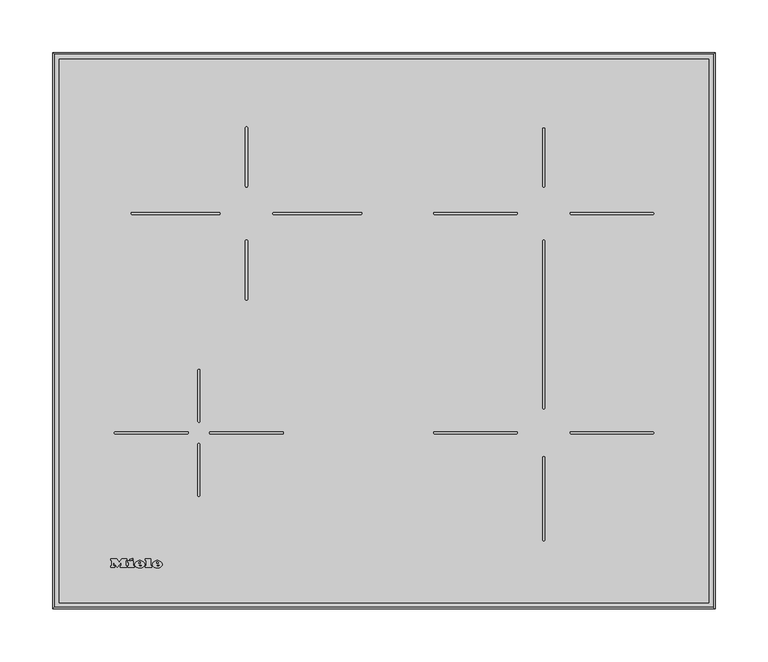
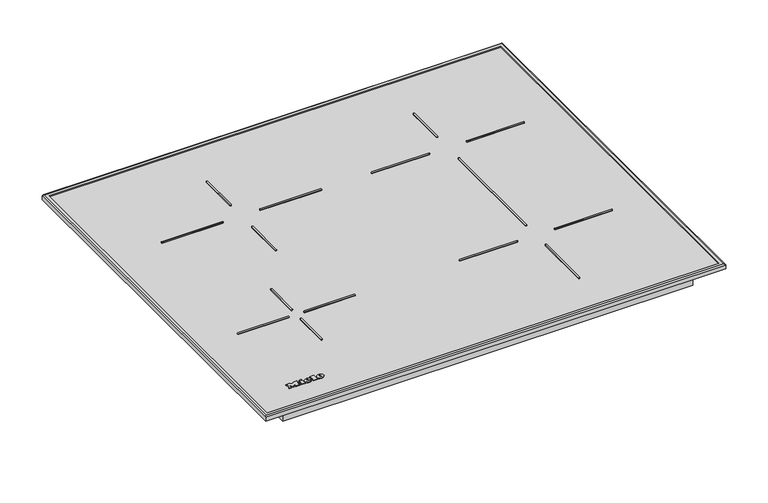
"""IFC4 building model written with IfcOpenShell, lengths in millimetres: proxy geometry, 12337600_D_KM7062FR : 26706210_D_12337600_KM7062FR."""

from ifc_helpers import new_model, si_unit, point, frame, frame_2d, origin, origin_with_axes, place, context, project, spatial, polyline, circle_curve, ellipse_curve, trimmed, segment, composite_curve, outline, extrude, source, transform, mapped, element, save
from ifc_brep_helpers import plane_surface, cylinder_surface, revolved_surface, extruded_surface, advanced_brep


def specialty_equipment_7da67e32(model_context):
    return source(origin(), model_context, "Body", "SolidModel", [
        advanced_brep(
        [(-214.911984, 41.066, 5.0000007), (-214.911984, 41.874, 5.0000007), (-209.559984, 41.874, 5.0000007), (-218.871984, 41.874, 5.0000007), (-216.671984, 39.17, 5.0000007), (-209.695984, 41.066, 5.0000007), (-212.111984, 41.066, 5.0000007), (-214.015984, 40.17, 5.0000007), (-214.911984, 42.898, 5.0000007), (-214.911984, 43.77, 5.0000007), (-213.543984, 43.77, 5.0000007), (-213.543984, 42.898, 5.0000007), (-214.911984, 41.066, 4.0000007), (-214.015984, 40.17, 4.0000007), (-212.111984, 41.066, 4.0000007), (-209.695984, 41.066, 4.0000007), (-216.671984, 39.17, 4.0000007), (-218.871984, 41.874, 4.0000007), (-209.559984, 41.874, 4.0000007), (-214.911984, 41.874, 4.0000007), (-214.911984, 42.898, 4.0000007), (-213.543984, 42.898, 4.0000007), (-213.543984, 43.77, 4.0000007), (-214.911984, 43.77, 4.0000007)],
        [
            (0, 1),
            (1, 2),
            (2, 3, ellipse_curve(frame((-214.215984, 41.874, 5.0000007), z_axis=(0.0, 0.0, 1.0), x_axis=(-1.0, 0.0, 0.0)), 4.656, 3.848)),
            (3, 4, circle_curve(frame((-215.7759404, 42.146, 5.0000007), z_axis=(0.0, 0.0, 1.0), x_axis=(0.0, -1.0, 0.0)), 3.1079688)),
            (4, 5, circle_curve(frame((-214.3091904, 44.258, 5.0000007), z_axis=(0.0, 0.0, 1.0), x_axis=(0.0, -1.0, 0.0)), 5.6098607)),
            (5, 6),
            (6, 7, circle_curve(frame((-213.6249252, 41.81, 5.0000007), z_axis=(0.0, 0.0, -1.0), x_axis=(0.0, -1.0, 0.0)), 1.6859795)),
            (7, 0, circle_curve(frame((-214.015984, 41.066, 5.0000007), z_axis=(0.0, 0.0, -1.0), x_axis=(0.0, -1.0, 0.0)), 0.896)),
            (8, 9),
            (9, 10, circle_curve(frame((-214.227984, 43.77, 5.0000007), z_axis=(0.0, 0.0, -1.0), x_axis=(0.0, -1.0, 0.0)), 0.684)),
            (10, 11),
            (11, 8),
            (12, 13, circle_curve(frame((-214.015984, 41.066, 4.0000007), z_axis=(0.0, 0.0, 1.0), x_axis=(0.0, -1.0, 0.0)), 0.896)),
            (13, 14, circle_curve(frame((-213.6249252, 41.81, 4.0000007), z_axis=(0.0, 0.0, 1.0), x_axis=(0.0, -1.0, 0.0)), 1.6859795)),
            (14, 15),
            (15, 16, circle_curve(frame((-214.3091904, 44.258, 4.0000007), z_axis=(0.0, 0.0, -1.0), x_axis=(0.0, -1.0, 0.0)), 5.6098607)),
            (16, 17, circle_curve(frame((-215.7759404, 42.146, 4.0000007), z_axis=(0.0, 0.0, -1.0), x_axis=(0.0, -1.0, 0.0)), 3.1079688)),
            (17, 18, ellipse_curve(frame((-214.215984, 41.874, 4.0000007), z_axis=(0.0, 0.0, -1.0), x_axis=(-1.0, 0.0, 0.0)), 4.656, 3.848)),
            (18, 19),
            (19, 12),
            (20, 21),
            (21, 22),
            (22, 23, circle_curve(frame((-214.227984, 43.77, 4.0000007), z_axis=(0.0, 0.0, 1.0), x_axis=(0.0, -1.0, 0.0)), 0.684)),
            (23, 20),
            (0, 12),
            (19, 1),
            (18, 2),
            (5, 15),
            (14, 6),
            (17, 3),
            (13, 7),
            (16, 4),
            (8, 20),
            (23, 9),
            (22, 10),
            (21, 11),
        ],
        [
            plane_surface(frame((-214.911984, 41.874, 5.0000007), z_axis=(0.0, 0.0, 1.0), x_axis=(0.0, 1.0, 0.0))),
            plane_surface(frame((-214.911984, 41.874, 4.0000007), z_axis=(0.0, 0.0, -1.0), x_axis=(0.0, -1.0, 0.0))),
            plane_surface(frame((-214.911984, 41.066, 5.0000007), z_axis=(1.0, 0.0, 0.0), x_axis=(0.0, 0.0, -1.0))),
            plane_surface(frame((-214.911984, 41.874, 5.0000007), z_axis=(0.0, -1.0, 0.0), x_axis=(0.0, 0.0, -1.0))),
            plane_surface(frame((-209.695984, 41.066, 5.0000007), z_axis=(0.0, 1.0, 0.0), x_axis=(0.0, 0.0, -1.0))),
            extruded_surface(trimmed(ellipse_curve(frame((-214.215984, 41.874, 3.0000007), z_axis=(0.0, 0.0, 1.0), x_axis=(-1.0, 0.0, 0.0)), 4.656, 3.848), [point((-209.559984, 41.874, 3.0000007))], [point((-218.871984, 41.874, 3.0000007))], True, "CARTESIAN"), (0.0, 0.0, 1.0), 1.0),
            revolved_surface(polyline([(-213.6249252, 40.1240205, 4.0000007), (-213.6249252, 40.1240205, 5.0000007)]), (-213.6249252, 41.81, 4.0000007), (0.0, 0.0, -1.0)),
            revolved_surface(polyline([(-214.015984, 40.17, 4.0000007), (-214.015984, 40.17, 5.0000007)]), (-214.015984, 41.066, 4.0000007), (0.0, 0.0, -1.0)),
            cylinder_surface(frame((-215.7759404, 42.146, 4.0000007), z_axis=(0.0, 0.0, 1.0), x_axis=(0.0, -1.0, 0.0)), 3.1079688),
            cylinder_surface(frame((-214.3091904, 44.258, 4.0000007), z_axis=(0.0, 0.0, 1.0), x_axis=(0.0, -1.0, 0.0)), 5.6098607),
            plane_surface(frame((-214.911984, 42.898, 5.0000007), z_axis=(1.0, 0.0, 0.0), x_axis=(0.0, 0.0, -1.0))),
            revolved_surface(polyline([(-214.227984, 43.086000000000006, 4.0000007), (-214.227984, 43.086000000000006, 5.0000007)]), (-214.227984, 43.77, 4.0000007), (0.0, 0.0, -1.0)),
            plane_surface(frame((-213.543984, 43.77, 5.0000007), z_axis=(-1.0, 0.0, 0.0), x_axis=(0.0, 0.0, -1.0))),
            plane_surface(frame((-213.543984, 42.898, 5.0000007), z_axis=(0.0, 1.0, 0.0), x_axis=(0.0, 0.0, -1.0))),
        ],
        [
            (0, [[1, 2, 3, 4, 5, 6, 7, 8], [9, 10, 11, 12]]),
            (1, [[13, 14, 15, 16, 17, 18, 19, 20], [21, 22, 23, 24]]),
            (2, [[-1, 25, -20, 26]]),
            (3, [[-2, -26, -19, 27]]),
            (4, [[-6, 28, -15, 29]]),
            (5, [[-3, -27, -18, 30]]),
            (6, [[-7, -29, -14, 31]]),
            (7, [[-8, -31, -13, -25]]),
            (8, [[-4, -30, -17, 32]]),
            (9, [[-5, -32, -16, -28]]),
            (10, [[-9, 33, -24, 34]]),
            (11, [[-10, -34, -23, 35]]),
            (12, [[-11, -35, -22, 36]]),
            (13, [[-12, -36, -21, -33]]),
        ],
    ),
        advanced_brep(
        [(-231.607984, 41.066, 5.0000007), (-231.607984, 41.874, 5.0000007), (-226.255984, 41.874, 5.0000007), (-235.567984, 41.874, 5.0000007), (-233.367984, 39.17, 5.0000007), (-226.391984, 41.066, 5.0000007), (-228.807984, 41.066, 5.0000007), (-230.711984, 40.17, 5.0000007), (-231.607984, 42.898, 5.0000007), (-231.607984, 43.77, 5.0000007), (-230.239984, 43.77, 5.0000007), (-230.239984, 42.898, 5.0000007), (-231.607984, 41.066, 4.0000007), (-230.711984, 40.17, 4.0000007), (-228.807984, 41.066, 4.0000007), (-226.391984, 41.066, 4.0000007), (-233.367984, 39.17, 4.0000007), (-235.567984, 41.874, 4.0000007), (-226.255984, 41.874, 4.0000007), (-231.607984, 41.874, 4.0000007), (-231.607984, 42.898, 4.0000007), (-230.239984, 42.898, 4.0000007), (-230.239984, 43.77, 4.0000007), (-231.607984, 43.77, 4.0000007)],
        [
            (0, 1),
            (1, 2),
            (2, 3, ellipse_curve(frame((-230.911984, 41.874, 5.0000007), z_axis=(0.0, 0.0, 1.0), x_axis=(-1.0, 0.0, 0.0)), 4.656, 3.848)),
            (3, 4, circle_curve(frame((-232.4719404, 42.146, 5.0000007), z_axis=(0.0, 0.0, 1.0), x_axis=(0.0, -1.0, 0.0)), 3.1079688)),
            (4, 5, circle_curve(frame((-231.0051904, 44.258, 5.0000007), z_axis=(0.0, 0.0, 1.0), x_axis=(0.0, -1.0, 0.0)), 5.6098607)),
            (5, 6),
            (6, 7, circle_curve(frame((-230.3209252, 41.81, 5.0000007), z_axis=(0.0, 0.0, -1.0), x_axis=(0.0, -1.0, 0.0)), 1.6859795)),
            (7, 0, circle_curve(frame((-230.711984, 41.066, 5.0000007), z_axis=(0.0, 0.0, -1.0), x_axis=(0.0, -1.0, 0.0)), 0.896)),
            (8, 9),
            (9, 10, circle_curve(frame((-230.923984, 43.77, 5.0000007), z_axis=(0.0, 0.0, -1.0), x_axis=(0.0, -1.0, 0.0)), 0.684)),
            (10, 11),
            (11, 8),
            (12, 13, circle_curve(frame((-230.711984, 41.066, 4.0000007), z_axis=(0.0, 0.0, 1.0), x_axis=(0.0, -1.0, 0.0)), 0.896)),
            (13, 14, circle_curve(frame((-230.3209252, 41.81, 4.0000007), z_axis=(0.0, 0.0, 1.0), x_axis=(0.0, -1.0, 0.0)), 1.6859795)),
            (14, 15),
            (15, 16, circle_curve(frame((-231.0051904, 44.258, 4.0000007), z_axis=(0.0, 0.0, -1.0), x_axis=(0.0, -1.0, 0.0)), 5.6098607)),
            (16, 17, circle_curve(frame((-232.4719404, 42.146, 4.0000007), z_axis=(0.0, 0.0, -1.0), x_axis=(0.0, -1.0, 0.0)), 3.1079688)),
            (17, 18, ellipse_curve(frame((-230.911984, 41.874, 4.0000007), z_axis=(0.0, 0.0, -1.0), x_axis=(-1.0, 0.0, 0.0)), 4.656, 3.848)),
            (18, 19),
            (19, 12),
            (20, 21),
            (21, 22),
            (22, 23, circle_curve(frame((-230.923984, 43.77, 4.0000007), z_axis=(0.0, 0.0, 1.0), x_axis=(0.0, -1.0, 0.0)), 0.684)),
            (23, 20),
            (0, 12),
            (19, 1),
            (18, 2),
            (5, 15),
            (14, 6),
            (17, 3),
            (13, 7),
            (16, 4),
            (8, 20),
            (23, 9),
            (22, 10),
            (21, 11),
        ],
        [
            plane_surface(frame((-231.607984, 41.874, 5.0000007), z_axis=(0.0, 0.0, 1.0), x_axis=(0.0, 1.0, 0.0))),
            plane_surface(frame((-231.607984, 41.874, 4.0000007), z_axis=(0.0, 0.0, -1.0), x_axis=(0.0, -1.0, 0.0))),
            plane_surface(frame((-231.607984, 41.066, 5.0000007), z_axis=(1.0, 0.0, 0.0), x_axis=(0.0, 0.0, -1.0))),
            plane_surface(frame((-231.607984, 41.874, 5.0000007), z_axis=(0.0, -1.0, 0.0), x_axis=(0.0, 0.0, -1.0))),
            plane_surface(frame((-226.391984, 41.066, 5.0000007), z_axis=(0.0, 1.0, 0.0), x_axis=(0.0, 0.0, -1.0))),
            extruded_surface(trimmed(ellipse_curve(frame((-230.911984, 41.874, 3.0000007), z_axis=(0.0, 0.0, 1.0), x_axis=(-1.0, 0.0, 0.0)), 4.656, 3.848), [point((-226.255984, 41.874, 3.0000007))], [point((-235.567984, 41.874, 3.0000007))], True, "CARTESIAN"), (0.0, 0.0, 1.0), 1.0),
            revolved_surface(polyline([(-230.3209252, 40.1240205, 4.0000007), (-230.3209252, 40.1240205, 5.0000007)]), (-230.3209252, 41.81, 4.0000007), (0.0, 0.0, -1.0)),
            revolved_surface(polyline([(-230.711984, 40.17, 4.0000007), (-230.711984, 40.17, 5.0000007)]), (-230.711984, 41.066, 4.0000007), (0.0, 0.0, -1.0)),
            cylinder_surface(frame((-232.4719404, 42.146, 4.0000007), z_axis=(0.0, 0.0, 1.0), x_axis=(0.0, -1.0, 0.0)), 3.1079688),
            cylinder_surface(frame((-231.0051904, 44.258, 4.0000007), z_axis=(0.0, 0.0, 1.0), x_axis=(0.0, -1.0, 0.0)), 5.6098607),
            plane_surface(frame((-231.607984, 42.898, 5.0000007), z_axis=(1.0, 0.0, 0.0), x_axis=(0.0, 0.0, -1.0))),
            revolved_surface(polyline([(-230.923984, 43.086000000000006, 4.0000007), (-230.923984, 43.086000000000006, 5.0000007)]), (-230.923984, 43.77, 4.0000007), (0.0, 0.0, -1.0)),
            plane_surface(frame((-230.239984, 43.77, 5.0000007), z_axis=(-1.0, 0.0, 0.0), x_axis=(0.0, 0.0, -1.0))),
            plane_surface(frame((-230.239984, 42.898, 5.0000007), z_axis=(0.0, 1.0, 0.0), x_axis=(0.0, 0.0, -1.0))),
        ],
        [
            (0, [[1, 2, 3, 4, 5, 6, 7, 8], [9, 10, 11, 12]]),
            (1, [[13, 14, 15, 16, 17, 18, 19, 20], [21, 22, 23, 24]]),
            (2, [[-1, 25, -20, 26]]),
            (3, [[-2, -26, -19, 27]]),
            (4, [[-6, 28, -15, 29]]),
            (5, [[-3, -27, -18, 30]]),
            (6, [[-7, -29, -14, 31]]),
            (7, [[-8, -31, -13, -25]]),
            (8, [[-4, -30, -17, 32]]),
            (9, [[-5, -32, -16, -28]]),
            (10, [[-9, 33, -24, 34]]),
            (11, [[-10, -34, -23, 35]]),
            (12, [[-11, -35, -22, 36]]),
            (13, [[-12, -36, -21, -33]]),
        ],
    ),
        extrude(outline(polyline([(-240.351984, 46.698), (-237.631984, 47.962), (-237.031984, 46.666), (-239.743984, 45.402), (-240.351984, 46.698)])), frame((0.0, 0.0, 4.0000007), z_axis=(0.0, 0.0, 1.0), x_axis=(1.0, 0.0, 0.0)), (0.0, 0.0, 1.0), 1.0),
        extrude(outline(polyline([(-242.327984, 45.226), (-236.943984, 45.226), (-236.943984, 40.514), (-236.015984, 40.514), (-236.015984, 39.17), (-242.327984, 39.17), (-242.327984, 40.514), (-241.375984, 40.514), (-241.375984, 43.794), (-242.327984, 43.794), (-242.327984, 45.226)])), frame((0.0, 0.0, 4.0000007), z_axis=(0.0, 0.0, 1.0), x_axis=(1.0, 0.0, 0.0)), (0.0, 0.0, 1.0), 1.0),
        extrude(outline(polyline([(-225.807984, 45.866), (-225.807984, 47.17), (-220.303984, 47.17), (-220.303984, 40.514), (-219.319984, 40.514), (-219.319984, 39.17), (-225.807984, 39.17), (-225.807984, 40.514), (-224.847984, 40.514), (-224.847984, 45.866), (-225.807984, 45.866)])), frame((0.0, 0.0, 4.0000007), z_axis=(0.0, 0.0, 1.0), x_axis=(1.0, 0.0, 0.0)), (0.0, 0.0, 1.0), 1.0),
        extrude(outline(polyline([(-258.271984, 45.866), (-258.271984, 47.17), (-252.695984, 47.17), (-250.351984, 44.17), (-248.015984, 47.17), (-243.143984, 47.17), (-243.143984, 45.866), (-244.159984, 45.866), (-244.159984, 40.514), (-243.143984, 40.514), (-243.143984, 39.17), (-249.527984, 39.17), (-249.527984, 40.514), (-248.543984, 40.514), (-248.543984, 43.9852223), (-252.135984, 39.17), (-255.711984, 43.9171247), (-255.711984, 40.514), (-254.751984, 40.514), (-254.751984, 39.17), (-258.271984, 39.17), (-258.271984, 40.514), (-257.303984, 40.514), (-257.303984, 45.866), (-258.271984, 45.866)])), frame((0.0, 0.0, 4.0000007), z_axis=(0.0, 0.0, 1.0), x_axis=(1.0, 0.0, 0.0)), (0.0, 0.0, 1.0), 1.0),
        extrude(outline(composite_curve([segment(trimmed(circle_curve(frame_2d((254.0, 374.0)), 1.0), [point((254.0, 375.0))], [point((254.0, 373.0))], False, "CARTESIAN"), True, "CONTINUOUS"), segment(polyline([(254.0, 373.0), (177.0, 373.0)]), True, "CONTINUOUS"), segment(trimmed(circle_curve(frame_2d((177.0, 374.0)), 1.0), [point((177.0, 373.0))], [point((177.0, 375.0))], False, "CARTESIAN"), True, "CONTINUOUS"), segment(polyline([(177.0, 375.0), (254.0, 375.0)]), True, "CONTINUOUS")], self_intersect=False)), frame((0.0, 0.0, 4.0000007), z_axis=(0.0, 0.0, 1.0), x_axis=(1.0, 0.0, 0.0)), (0.0, 0.0, 1.0), 1.0),
        extrude(outline(composite_curve([segment(polyline([(48.0, 375.0), (125.0, 375.0)]), True, "CONTINUOUS"), segment(trimmed(circle_curve(frame_2d((125.0, 374.0)), 1.0), [point((125.0, 375.0))], [point((125.0, 373.0))], False, "CARTESIAN"), True, "CONTINUOUS"), segment(polyline([(125.0, 373.0), (48.0, 373.0)]), True, "CONTINUOUS"), segment(trimmed(circle_curve(frame_2d((48.0, 374.0)), 1.0), [point((48.0, 373.0))], [point((48.0, 375.0))], False, "CARTESIAN"), True, "CONTINUOUS")], self_intersect=False)), frame((0.0, 0.0, 4.0000007), z_axis=(0.0, 0.0, 1.0), x_axis=(1.0, 0.0, 0.0)), (0.0, 0.0, 1.0), 1.0),
        extrude(outline(composite_curve([segment(trimmed(circle_curve(frame_2d((151.0, 454.0)), 1.0), [point((150.0, 454.0))], [point((152.0, 454.0))], False, "CARTESIAN"), True, "CONTINUOUS"), segment(polyline([(152.0, 454.0), (152.0, 400.0)]), True, "CONTINUOUS"), segment(trimmed(circle_curve(frame_2d((151.0, 400.0)), 1.0), [point((152.0, 400.0))], [point((150.0, 400.0))], False, "CARTESIAN"), True, "CONTINUOUS"), segment(polyline([(150.0, 400.0), (150.0, 454.0)]), True, "CONTINUOUS")], self_intersect=False)), frame((0.0, 0.0, 4.0000007), z_axis=(0.0, 0.0, 1.0), x_axis=(1.0, 0.0, 0.0)), (0.0, 0.0, 1.0), 1.0),
        extrude(outline(composite_curve([segment(polyline([(150.0, 190.0), (150.0, 348.0)]), True, "CONTINUOUS"), segment(trimmed(circle_curve(frame_2d((151.0, 348.0)), 1.0), [point((150.0, 348.0))], [point((152.0, 348.0))], False, "CARTESIAN"), True, "CONTINUOUS"), segment(polyline([(152.0, 348.0), (152.0, 190.0)]), True, "CONTINUOUS"), segment(trimmed(circle_curve(frame_2d((151.0, 190.0)), 1.0), [point((152.0, 190.0))], [point((150.0, 190.0))], False, "CARTESIAN"), True, "CONTINUOUS")], self_intersect=False)), frame((0.0, 0.0, 4.0000007), z_axis=(0.0, 0.0, 1.0), x_axis=(1.0, 0.0, 0.0)), (0.0, 0.0, 1.0), 1.0),
        extrude(outline(composite_curve([segment(trimmed(circle_curve(frame_2d((254.0, 166.5)), 1.0), [point((254.0, 167.5))], [point((254.0, 165.5))], False, "CARTESIAN"), True, "CONTINUOUS"), segment(polyline([(254.0, 165.5), (177.0, 165.5)]), True, "CONTINUOUS"), segment(trimmed(circle_curve(frame_2d((177.0, 166.5)), 1.0), [point((177.0, 165.5))], [point((177.0, 167.5))], False, "CARTESIAN"), True, "CONTINUOUS"), segment(polyline([(177.0, 167.5), (254.0, 167.5)]), True, "CONTINUOUS")], self_intersect=False)), frame((0.0, 0.0, 4.0000007), z_axis=(0.0, 0.0, 1.0), x_axis=(1.0, 0.0, 0.0)), (0.0, 0.0, 1.0), 1.0),
        extrude(outline(composite_curve([segment(polyline([(48.0, 167.5), (125.0, 167.5)]), True, "CONTINUOUS"), segment(trimmed(circle_curve(frame_2d((125.0, 166.5)), 1.0), [point((125.0, 167.5))], [point((125.0, 165.5))], False, "CARTESIAN"), True, "CONTINUOUS"), segment(polyline([(125.0, 165.5), (48.0, 165.5)]), True, "CONTINUOUS"), segment(trimmed(circle_curve(frame_2d((48.0, 166.5)), 1.0), [point((48.0, 165.5))], [point((48.0, 167.5))], False, "CARTESIAN"), True, "CONTINUOUS")], self_intersect=False)), frame((0.0, 0.0, 4.0000007), z_axis=(0.0, 0.0, 1.0), x_axis=(1.0, 0.0, 0.0)), (0.0, 0.0, 1.0), 1.0),
        extrude(outline(composite_curve([segment(polyline([(152.0, 143.0), (152.0, 65.25)]), True, "CONTINUOUS"), segment(trimmed(circle_curve(frame_2d((151.0, 65.25)), 1.0), [point((152.0, 65.25))], [point((150.0, 65.25))], False, "CARTESIAN"), True, "CONTINUOUS"), segment(polyline([(150.0, 65.25), (150.0, 143.0)]), True, "CONTINUOUS"), segment(trimmed(circle_curve(frame_2d((151.0, 143.0)), 1.0), [point((150.0, 143.0))], [point((152.0, 143.0))], False, "CARTESIAN"), True, "CONTINUOUS")], self_intersect=False)), frame((0.0, 0.0, 4.0000007), z_axis=(0.0, 0.0, 1.0), x_axis=(1.0, 0.0, 0.0)), (0.0, 0.0, 1.0), 1.0),
        extrude(outline(composite_curve([segment(trimmed(circle_curve(frame_2d((-96.0, 166.5)), 1.0), [point((-96.0, 167.5))], [point((-96.0, 165.5))], False, "CARTESIAN"), True, "CONTINUOUS"), segment(polyline([(-96.0, 165.5), (-164.0, 165.5)]), True, "CONTINUOUS"), segment(trimmed(circle_curve(frame_2d((-164.0, 166.5)), 1.0), [point((-164.0, 165.5))], [point((-164.0, 167.5))], False, "CARTESIAN"), True, "CONTINUOUS"), segment(polyline([(-164.0, 167.5), (-96.0, 167.5)]), True, "CONTINUOUS")], self_intersect=False)), frame((0.0, 0.0, 4.0000007), z_axis=(0.0, 0.0, 1.0), x_axis=(1.0, 0.0, 0.0)), (0.0, 0.0, 1.0), 1.0),
        extrude(outline(composite_curve([segment(polyline([(-254.0, 167.5), (-186.0, 167.5)]), True, "CONTINUOUS"), segment(trimmed(circle_curve(frame_2d((-186.0, 166.5)), 1.0), [point((-186.0, 167.5))], [point((-186.0, 165.5))], False, "CARTESIAN"), True, "CONTINUOUS"), segment(polyline([(-186.0, 165.5), (-254.0, 165.5)]), True, "CONTINUOUS"), segment(trimmed(circle_curve(frame_2d((-254.0, 166.5)), 1.0), [point((-254.0, 165.5))], [point((-254.0, 167.5))], False, "CARTESIAN"), True, "CONTINUOUS")], self_intersect=False)), frame((0.0, 0.0, 4.0000007), z_axis=(0.0, 0.0, 1.0), x_axis=(1.0, 0.0, 0.0)), (0.0, 0.0, 1.0), 1.0),
        extrude(outline(composite_curve([segment(trimmed(circle_curve(frame_2d((-175.0, 177.5)), 1.0), [point((-174.0, 177.5))], [point((-176.0, 177.5))], False, "CARTESIAN"), True, "CONTINUOUS"), segment(polyline([(-176.0, 177.5), (-176.0, 225.5)]), True, "CONTINUOUS"), segment(trimmed(circle_curve(frame_2d((-175.0, 225.5)), 1.0), [point((-176.0, 225.5))], [point((-174.0, 225.5))], False, "CARTESIAN"), True, "CONTINUOUS"), segment(polyline([(-174.0, 225.5), (-174.0, 177.5)]), True, "CONTINUOUS")], self_intersect=False)), frame((0.0, 0.0, 4.0000007), z_axis=(0.0, 0.0, 1.0), x_axis=(1.0, 0.0, 0.0)), (0.0, 0.0, 1.0), 1.0),
        extrude(outline(composite_curve([segment(polyline([(-174.0, 155.5), (-174.0, 107.5)]), True, "CONTINUOUS"), segment(trimmed(circle_curve(frame_2d((-175.0, 107.5)), 1.0), [point((-174.0, 107.5))], [point((-176.0, 107.5))], False, "CARTESIAN"), True, "CONTINUOUS"), segment(polyline([(-176.0, 107.5), (-176.0, 155.5)]), True, "CONTINUOUS"), segment(trimmed(circle_curve(frame_2d((-175.0, 155.5)), 1.0), [point((-176.0, 155.5))], [point((-174.0, 155.5))], False, "CARTESIAN"), True, "CONTINUOUS")], self_intersect=False)), frame((0.0, 0.0, 4.0000007), z_axis=(0.0, 0.0, 1.0), x_axis=(1.0, 0.0, 0.0)), (0.0, 0.0, 1.0), 1.0),
        extrude(outline(composite_curve([segment(polyline([(-22.0, 373.0), (-104.0, 373.0)]), True, "CONTINUOUS"), segment(trimmed(circle_curve(frame_2d((-104.0, 374.0)), 1.0), [point((-104.0, 373.0))], [point((-104.0, 375.0))], False, "CARTESIAN"), True, "CONTINUOUS"), segment(polyline([(-104.0, 375.0), (-22.0, 375.0)]), True, "CONTINUOUS"), segment(trimmed(circle_curve(frame_2d((-22.0, 374.0)), 1.0), [point((-22.0, 375.0))], [point((-22.0, 373.0))], False, "CARTESIAN"), True, "CONTINUOUS")], self_intersect=False)), frame((0.0, 0.0, 4.0000007), z_axis=(0.0, 0.0, 1.0), x_axis=(1.0, 0.0, 0.0)), (0.0, 0.0, 1.0), 1.0),
        extrude(outline(composite_curve([segment(trimmed(circle_curve(frame_2d((-130.0, 400.0)), 1.0), [point((-129.0, 400.0))], [point((-131.0, 400.0))], False, "CARTESIAN"), True, "CONTINUOUS"), segment(polyline([(-131.0, 400.0), (-131.0, 455.0)]), True, "CONTINUOUS"), segment(trimmed(circle_curve(frame_2d((-130.0, 455.0)), 1.0), [point((-131.0, 455.0))], [point((-129.0, 455.0))], False, "CARTESIAN"), True, "CONTINUOUS"), segment(polyline([(-129.0, 455.0), (-129.0, 400.0)]), True, "CONTINUOUS")], self_intersect=False)), frame((0.0, 0.0, 4.0000007), z_axis=(0.0, 0.0, 1.0), x_axis=(1.0, 0.0, 0.0)), (0.0, 0.0, 1.0), 1.0),
        extrude(outline(composite_curve([segment(trimmed(circle_curve(frame_2d((-238.0, 374.0)), 1.0), [point((-238.0, 373.0))], [point((-238.0, 375.0))], False, "CARTESIAN"), True, "CONTINUOUS"), segment(polyline([(-238.0, 375.0), (-156.0, 375.0)]), True, "CONTINUOUS"), segment(trimmed(circle_curve(frame_2d((-156.0, 374.0)), 1.0), [point((-156.0, 375.0))], [point((-156.0, 373.0))], False, "CARTESIAN"), True, "CONTINUOUS"), segment(polyline([(-156.0, 373.0), (-238.0, 373.0)]), True, "CONTINUOUS")], self_intersect=False)), frame((0.0, 0.0, 4.0000007), z_axis=(0.0, 0.0, 1.0), x_axis=(1.0, 0.0, 0.0)), (0.0, 0.0, 1.0), 1.0),
        extrude(outline(composite_curve([segment(polyline([(-129.0, 348.0), (-129.0, 293.0)]), True, "CONTINUOUS"), segment(trimmed(circle_curve(frame_2d((-130.0, 293.0)), 1.0), [point((-129.0, 293.0))], [point((-131.0, 293.0))], False, "CARTESIAN"), True, "CONTINUOUS"), segment(polyline([(-131.0, 293.0), (-131.0, 348.0)]), True, "CONTINUOUS"), segment(trimmed(circle_curve(frame_2d((-130.0, 348.0)), 1.0), [point((-131.0, 348.0))], [point((-129.0, 348.0))], False, "CARTESIAN"), True, "CONTINUOUS")], self_intersect=False)), frame((0.0, 0.0, 4.0000007), z_axis=(0.0, 0.0, 1.0), x_axis=(1.0, 0.0, 0.0)), (0.0, 0.0, 1.0), 1.0),
        advanced_brep(
        [(313.0, 526.0, 0.0), (313.0, 526.0, 5.5271728), (313.0, 0.0, 5.5271728), (313.0, 0.0, 0.0), (311.5271728, 524.5271728, 5.8817013), (311.5271728, 524.5271728, 0.0), (311.5271728, 1.4728272, 0.0), (311.5271728, 1.4728272, 5.8817013), (307.2139587, 520.2139587, 7.0), (307.2139587, 520.2139587, 5.8817013), (307.2139587, 5.7860413, 5.8817013), (307.2139587, 5.7860413, 7.0), (311.5271728, 524.5271728, 7.0), (311.5271728, 1.4728272, 7.0), (-313.0, 0.0, 5.5271728), (-313.0, 0.0, 0.0), (-311.5271728, 1.4728272, 0.0), (-311.5271728, 1.4728272, 5.8817013), (-307.2139587, 5.7860413, 5.8817013), (-307.2139587, 5.7860413, 7.0), (-311.5271728, 1.4728272, 7.0), (-313.0, 526.0, 5.5271728), (-313.0, 526.0, 0.0), (-311.5271728, 524.5271728, 0.0), (-311.5271728, 524.5271728, 5.8817013), (-307.2139587, 520.2139587, 5.8817013), (-307.2139587, 520.2139587, 7.0), (-311.5271728, 524.5271728, 7.0)],
        [
            (0, 1),
            (1, 2),
            (2, 3),
            (3, 0),
            (4, 5),
            (5, 6),
            (6, 7),
            (7, 4),
            (8, 9),
            (9, 10),
            (10, 11),
            (11, 8),
            (1, 12, ellipse_curve(frame((311.5271728, 524.5271728, 5.5271728), z_axis=(0.7071067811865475, -0.7071067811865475, 0.0), x_axis=(0.7071067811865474, 0.7071067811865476, 0.0)), 2.0828921, 1.4728272)),
            (12, 13),
            (13, 2, ellipse_curve(frame((311.5271728, 1.4728272, 5.5271728), z_axis=(0.7071067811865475, 0.7071067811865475, 0.0), x_axis=(-0.7071067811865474, 0.7071067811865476, 0.0)), 2.0828921, 1.4728272)),
            (2, 14),
            (14, 15),
            (15, 3),
            (6, 16),
            (16, 17),
            (17, 7),
            (10, 18),
            (18, 19),
            (19, 11),
            (13, 20),
            (20, 14, ellipse_curve(frame((-311.5271728, 1.4728272, 5.5271728), z_axis=(0.7071067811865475, -0.7071067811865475, 0.0), x_axis=(0.7071067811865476, 0.7071067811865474, 0.0)), 2.0828921, 1.4728272)),
            (14, 21),
            (21, 22),
            (22, 15),
            (16, 23),
            (23, 24),
            (24, 17),
            (18, 25),
            (25, 26),
            (26, 19),
            (20, 27),
            (27, 21, ellipse_curve(frame((-311.5271728, 524.5271728, 5.5271728), z_axis=(-0.7071067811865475, -0.7071067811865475, 0.0), x_axis=(0.7071067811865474, -0.7071067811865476, 0.0)), 2.0828921, 1.4728272)),
            (21, 1),
            (0, 22),
            (5, 23),
            (4, 24),
            (9, 25),
            (8, 26),
            (12, 27),
        ],
        [
            plane_surface(frame((313.0, 526.0, 5.5271728), z_axis=(1.0, 0.0, 0.0), x_axis=(0.0, -1.0, 0.0))),
            plane_surface(frame((311.5271728, 524.5271728, 0.0), z_axis=(-1.0, 0.0, 0.0), x_axis=(0.0, -1.0, 0.0))),
            plane_surface(frame((307.2139587, 520.2139587, 5.8817013), z_axis=(-1.0, 0.0, 0.0), x_axis=(0.0, -1.0, 0.0))),
            cylinder_surface(frame((311.5271728, 526.0, 5.5271728), z_axis=(0.0, 1.0, 0.0), x_axis=(1.0, 0.0, 0.0)), 1.4728272),
            plane_surface(frame((313.0, 0.0, 5.5271728), z_axis=(0.0, -1.0, 0.0), x_axis=(-1.0, 0.0, 0.0))),
            plane_surface(frame((311.5271728, 1.4728272, 0.0), z_axis=(0.0, 1.0, 0.0), x_axis=(-1.0, 0.0, 0.0))),
            plane_surface(frame((307.2139587, 5.7860413, 5.8817013), z_axis=(0.0, 1.0, 0.0), x_axis=(-1.0, 0.0, 0.0))),
            cylinder_surface(frame((313.0, 1.4728272, 5.5271728), z_axis=(1.0, 0.0, 0.0), x_axis=(0.0, -1.0, 0.0)), 1.4728272),
            plane_surface(frame((-313.0, 0.0, 5.5271728), z_axis=(-1.0, 0.0, 0.0), x_axis=(0.0, 1.0, 0.0))),
            plane_surface(frame((-311.5271728, 1.4728272, 0.0), z_axis=(1.0, 0.0, 0.0), x_axis=(0.0, 1.0, 0.0))),
            plane_surface(frame((-307.2139587, 5.7860413, 5.8817013), z_axis=(1.0, 0.0, 0.0), x_axis=(0.0, 1.0, 0.0))),
            cylinder_surface(frame((-311.5271728, 0.0, 5.5271728), z_axis=(0.0, -1.0, 0.0), x_axis=(-1.0, 0.0, 0.0)), 1.4728272),
            plane_surface(frame((-313.0, 526.0, 5.5271728), z_axis=(0.0, 1.0, 0.0), x_axis=(1.0, 0.0, 0.0))),
            plane_surface(frame((-313.0, 526.0, 0.0), z_axis=(0.0, 0.0, -1.0), x_axis=(1.0, 0.0, 0.0))),
            plane_surface(frame((-311.5271728, 524.5271728, 0.0), z_axis=(0.0, -1.0, 0.0), x_axis=(1.0, 0.0, 0.0))),
            plane_surface(frame((-311.5271728, 524.5271728, 5.8817013), z_axis=(0.0, 0.0, -1.0), x_axis=(1.0, 0.0, 0.0))),
            plane_surface(frame((-307.2139587, 520.2139587, 5.8817013), z_axis=(0.0, -1.0, 0.0), x_axis=(1.0, 0.0, 0.0))),
            plane_surface(frame((-307.2139587, 520.2139587, 7.0), z_axis=(0.0, 0.0, 1.0), x_axis=(1.0, 0.0, 0.0))),
            cylinder_surface(frame((-313.0, 524.5271728, 5.5271728), z_axis=(-1.0, 0.0, 0.0), x_axis=(0.0, 1.0, 0.0)), 1.4728272),
        ],
        [
            (0, [[1, 2, 3, 4]]),
            (1, [[5, 6, 7, 8]]),
            (2, [[9, 10, 11, 12]]),
            (3, [[13, 14, 15, -2]]),
            (4, [[-3, 16, 17, 18]]),
            (5, [[-7, 19, 20, 21]]),
            (6, [[-11, 22, 23, 24]]),
            (7, [[-15, 25, 26, -16]]),
            (8, [[-17, 27, 28, 29]]),
            (9, [[-20, 30, 31, 32]]),
            (10, [[-23, 33, 34, 35]]),
            (11, [[-26, 36, 37, -27]]),
            (12, [[-28, 38, -1, 39]]),
            (13, [[-18, -29, -39, -4], [40, -30, -19, -6]]),
            (14, [[-31, -40, -5, 41]]),
            (15, [[-21, -32, -41, -8], [42, -33, -22, -10]]),
            (16, [[-34, -42, -9, 43]]),
            (17, [[44, -36, -25, -14], [-24, -35, -43, -12]]),
            (18, [[-37, -44, -13, -38]]),
        ],
    ),
        extrude(outline(polyline([(186.7938197, 483.0), (186.7938197, 365.7202614), (189.0, 365.7202614), (189.0, 79.0), (-105.0, 79.0), (-105.0, 483.0), (186.7938197, 483.0)])), frame((0.0, 0.0, -49.1723575), z_axis=(0.0, 0.0, 1.0), x_axis=(1.0, 0.0, 0.0)), (0.0, 0.0, 1.0), 26.1723575),
        extrude(outline(polyline([(279.0, 507.0), (279.0, 19.0), (-279.0, 19.0), (-279.0, 507.0), (279.0, 507.0)])), frame((0.0, 0.0, -23.0), z_axis=(0.0, 0.0, 1.0), x_axis=(1.0, 0.0, 0.0)), (0.0, 0.0, 1.0), 23.0),
        extrude(outline(polyline([(309.75, 523.0), (309.75, 3.0), (-309.75, 3.0), (-309.75, 523.0), (309.75, 523.0)])), origin_with_axes(), (0.0, 0.0, 1.0), 4.0000007),
        extrude(outline(polyline([(189.6227397, 386.1708126), (197.0, 386.1708126), (197.0, 384.9151088), (190.8784436, 384.9151088), (190.8784436, 381.6188861), (196.529111, 381.6188861), (196.529111, 380.3631822), (190.8784436, 380.3631822), (190.8784436, 377.3808855), (196.843037, 377.3808855), (196.843037, 376.1251816), (189.6227397, 376.1251816), (189.6227397, 386.1708126)])), frame((0.0, 0.0, -55.9814925), z_axis=(0.0, 0.0, 1.0), x_axis=(1.0, 0.0, 0.0)), (0.0, 0.0, 1.0), 1.0),
        extrude(outline(polyline([(198.8835558, 386.1708126), (205.1620752, 386.1708126), (205.1620752, 384.9151088), (200.1392597, 384.9151088), (200.1392597, 376.1251816), (198.8835558, 376.1251816), (198.8835558, 386.1708126)])), frame((0.0, 0.0, -55.9814925), z_axis=(0.0, 0.0, 1.0), x_axis=(1.0, 0.0, 0.0)), (0.0, 0.0, 1.0), 1.0),
        advanced_brep(
        [(174.0, 381.1708126, -42.9814925), (174.0, 381.1708126, -26.9814925), (188.7476293, 381.1708126, -42.9814925), (204.7476293, 381.1708126, -26.9814925), (188.7476293, 381.1708126, -54.9814925), (204.7476293, 381.1708126, -54.9814925)],
        [
            (0, 1, circle_curve(frame((174.0, 381.1708126, -34.9814925), z_axis=(-1.0, 0.0, 0.0), x_axis=(0.0, 0.0, 1.0)), 8.0)),
            (1, 0, circle_curve(frame((174.0, 381.1708126, -34.9814925), z_axis=(-1.0, 0.0, 0.0), x_axis=(0.0, 0.0, 1.0)), 8.0)),
            (0, 2),
            (2, 3, ellipse_curve(frame((196.7476293, 381.1708126, -34.9814925), z_axis=(-0.7071067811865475, 0.0, 0.7071067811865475), x_axis=(-0.7071067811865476, 0.0, -0.7071067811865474)), 11.3137085, 8.0)),
            (3, 1),
            (3, 2, ellipse_curve(frame((196.7476293, 381.1708126, -34.9814925), z_axis=(-0.7071067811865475, 0.0, 0.7071067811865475), x_axis=(-0.7071067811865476, 0.0, -0.7071067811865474)), 11.3137085, 8.0)),
            (4, 5, circle_curve(frame((196.7476293, 381.1708126, -54.9814925), z_axis=(0.0, 0.0, -1.0), x_axis=(1.0, 0.0, 0.0)), 8.0)),
            (5, 4, circle_curve(frame((196.7476293, 381.1708126, -54.9814925), z_axis=(0.0, 0.0, -1.0), x_axis=(1.0, 0.0, 0.0)), 8.0)),
            (2, 4),
            (5, 3),
        ],
        [
            plane_surface(frame((174.0, 0.0, -34.9814925), z_axis=(-1.0, 0.0, 0.0), x_axis=(0.0, -1.0, 0.0))),
            cylinder_surface(frame((174.0, 381.1708126, -34.9814925), z_axis=(-1.0, 0.0, 0.0), x_axis=(0.0, 0.0, 1.0)), 8.0),
            plane_surface(frame((196.7476293, 0.0, -54.9814925), z_axis=(0.0, 0.0, -1.0), x_axis=(0.0, -1.0, 0.0))),
            cylinder_surface(frame((196.7476293, 381.1708126, -34.9814925), z_axis=(0.0, 0.0, 1.0), x_axis=(1.0, 0.0, 0.0)), 8.0),
        ],
        [
            (0, [[1, 2]]),
            (1, [[-1, 3, 4, 5]]),
            (1, [[-2, -5, 6, -3]]),
            (2, [[7, 8]]),
            (3, [[-4, 9, -8, 10]]),
            (3, [[-6, -10, -7, -9]]),
        ],
    ),
    ])


if __name__ == "__main__":
    model = new_model("IFC4")
    model_context = context("Model", 3, world=origin())
    ifc_project = project(units=[si_unit("LENGTHUNIT", "METRE", prefix="MILLI")], contexts=[model_context])
    site = spatial("IfcSite", under=ifc_project)
    building = spatial("IfcBuilding", under=site)
    placement = place(None, origin())
    specialty_equipment_shape = specialty_equipment_7da67e32(model_context)
    element("IfcBuildingElementProxy", 1, Name="12337600_D_KM7062FR : 26706210_D_12337600_KM7062FR", ObjectType="12337600_D_KM7062FR : 26706210_D_12337600_KM7062FR", at=placement, inside=building, context=model_context, shape_type="MappedRepresentation", body=[
        mapped(specialty_equipment_shape, transform((0.0, 0.0, 0.0), x_axis=(1.0, 0.0, 0.0), y_axis=(0.0, 1.0, 0.0), z_axis=(0.0, 0.0, 1.0))),
    ])
    save(model, "model.ifc")
